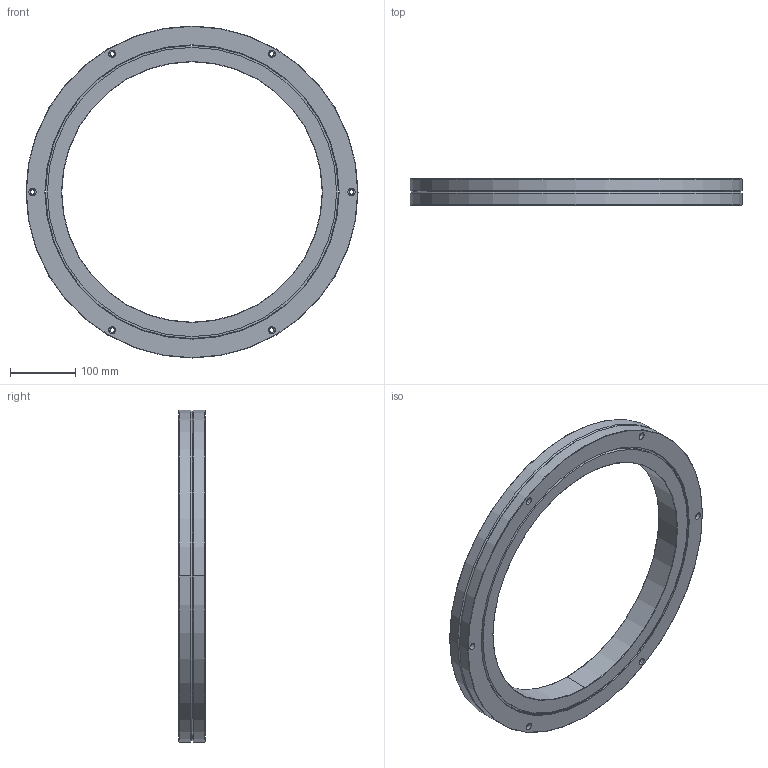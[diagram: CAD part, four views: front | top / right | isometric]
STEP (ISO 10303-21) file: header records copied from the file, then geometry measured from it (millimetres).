
FILE_DESCRIPTION((''),'2;1');
FILE_NAME('RB40040','2015-08-27T',('Administrator'),(''),'PRO/ENGINEER BY PARAMETRIC TECHNOLOGY CORPORATION, 2010180','PRO/ENGINEER BY PARAMETRIC TECHNOLOGY CORPORATION, 2010180','');
FILE_SCHEMA(('AUTOMOTIVE_DESIGN_CC2 { 1 2 10303 214 -1 1 5 2 }'));
Length unit declared in the file: millimetre
Products named in the file (1): RB40040
Bounding box: 510 x 40 x 510 mm (x, y, z)
Volume: 2716387.9 mm3; surface area: 439254.6 mm2
Topology: 2 solids, 2 shells, 104 faces, 220 edges, 138 vertices
Faces by surface type: cylinder 62, plane 22, cone 12, torus 8
Entity records: 2965 total; most frequent: DIRECTION 574, CARTESIAN_POINT 462, ORIENTED_EDGE 440, AXIS2_PLACEMENT_3D 250, EDGE_CURVE 220, CIRCLE 146, VERTEX_POINT 138, EDGE_LOOP 138
